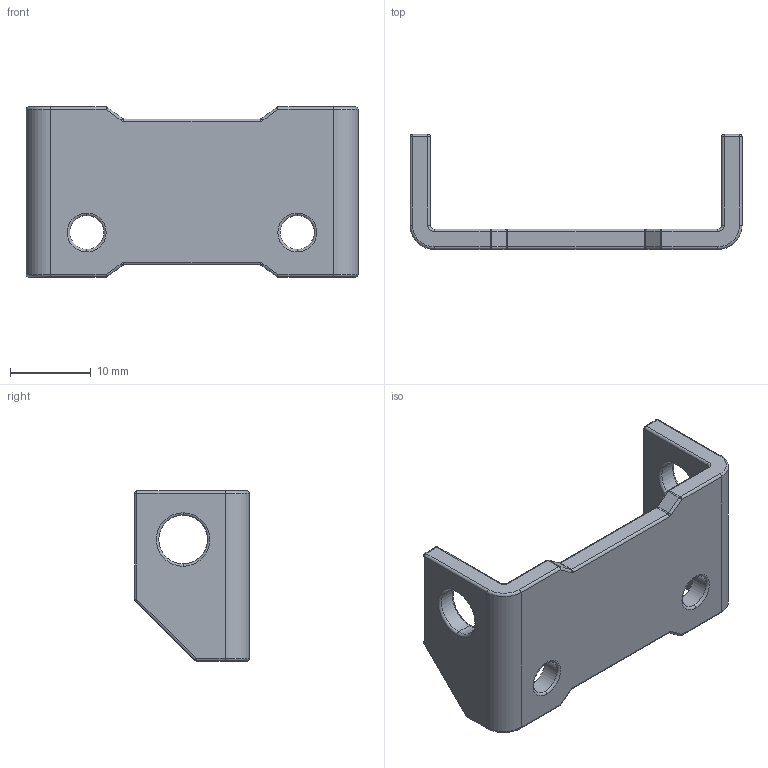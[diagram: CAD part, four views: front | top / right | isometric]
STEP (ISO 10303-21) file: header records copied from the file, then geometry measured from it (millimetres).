
FILE_DESCRIPTION (( 'STEP AP203' ), '1' );
FILE_NAME ('1213860.STEP', '2018-11-14T01:48:09', ( '' ), ( '' ), 'SwSTEP 2.0', 'SolidWorks 2018', '' );
FILE_SCHEMA (( 'CONFIG_CONTROL_DESIGN' ));
Length unit declared in the file: millimetre
Products named in the file (1): 1213860
Bounding box: 41 x 14.2 x 21 mm (x, y, z)
Volume: 2800 mm3; surface area: 2754.1 mm2
Topology: 1 solids, 1 shells, 130 faces, 302 edges, 158 vertices
Faces by surface type: cylinder 62, torus 28, plane 20, sphere 20
Entity records: 3629 total; most frequent: DIRECTION 718, CARTESIAN_POINT 575, ORIENTED_EDGE 572, AXIS2_PLACEMENT_3D 301, EDGE_CURVE 286, CIRCLE 170, VERTEX_POINT 158, EDGE_LOOP 138
